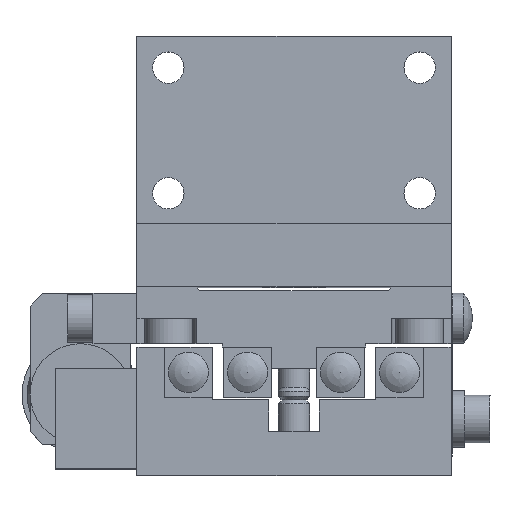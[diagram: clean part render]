
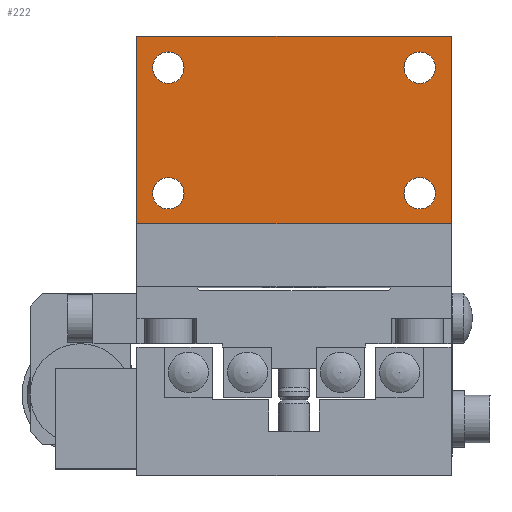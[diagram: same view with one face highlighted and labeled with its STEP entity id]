
A CAD part, top view. The second image highlights one B-rep face of the part: STEP entity #222.
In plain terms, the highlighted planar face has unit normal (0, 0, 1).
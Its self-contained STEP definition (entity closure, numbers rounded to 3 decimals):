
#222 = ADVANCED_FACE( '', ( #465, #466, #467, #468, #469 ), #470, .T. );
#465 = FACE_BOUND( '', #1063, .T. );
#466 = FACE_BOUND( '', #1064, .T. );
#467 = FACE_BOUND( '', #1065, .T. );
#468 = FACE_BOUND( '', #1066, .T. );
#469 = FACE_OUTER_BOUND( '', #1067, .T. );
#470 = PLANE( '', #1068 );
#1063 = EDGE_LOOP( '', ( #1679 ) );
#1064 = EDGE_LOOP( '', ( #1680 ) );
#1065 = EDGE_LOOP( '', ( #1681 ) );
#1066 = EDGE_LOOP( '', ( #1682 ) );
#1067 = EDGE_LOOP( '', ( #1683, #1684, #1685, #1686 ) );
#1068 = AXIS2_PLACEMENT_3D( '', #1687, #1688, #1689 );
#1679 = ORIENTED_EDGE( '', *, *, #3337, .T. );
#1680 = ORIENTED_EDGE( '', *, *, #3338, .T. );
#1681 = ORIENTED_EDGE( '', *, *, #3339, .T. );
#1682 = ORIENTED_EDGE( '', *, *, #3340, .T. );
#1683 = ORIENTED_EDGE( '', *, *, #3341, .F. );
#1684 = ORIENTED_EDGE( '', *, *, #3325, .F. );
#1685 = ORIENTED_EDGE( '', *, *, #3342, .F. );
#1686 = ORIENTED_EDGE( '', *, *, #3334, .F. );
#1687 = CARTESIAN_POINT( '', ( 128.906, -5., 5. ) );
#1688 = DIRECTION( '', ( 0., 0., 1. ) );
#1689 = DIRECTION( '', ( 0., 1., 0. ) );
#3325 = EDGE_CURVE( '', #3820, #3823, #3824, .T. );
#3334 = EDGE_CURVE( '', #3838, #3841, #3842, .T. );
#3337 = EDGE_CURVE( '', #3846, #3846, #3847, .T. );
#3338 = EDGE_CURVE( '', #3848, #3848, #3849, .T. );
#3339 = EDGE_CURVE( '', #3850, #3850, #3851, .T. );
#3340 = EDGE_CURVE( '', #3852, #3852, #3853, .T. );
#3341 = EDGE_CURVE( '', #3823, #3838, #3854, .T. );
#3342 = EDGE_CURVE( '', #3841, #3820, #3855, .T. );
#3820 = VERTEX_POINT( '', #4644 );
#3823 = VERTEX_POINT( '', #4648 );
#3824 = LINE( '', #4649, #4650 );
#3838 = VERTEX_POINT( '', #4666 );
#3841 = VERTEX_POINT( '', #4670 );
#3842 = LINE( '', #4671, #4672 );
#3846 = VERTEX_POINT( '', #4678 );
#3847 = CIRCLE( '', #4679, 1.25 );
#3848 = VERTEX_POINT( '', #4680 );
#3849 = CIRCLE( '', #4681, 1.25 );
#3850 = VERTEX_POINT( '', #4682 );
#3851 = CIRCLE( '', #4683, 1.25 );
#3852 = VERTEX_POINT( '', #4684 );
#3853 = CIRCLE( '', #4685, 1.25 );
#3854 = LINE( '', #4686, #4687 );
#3855 = LINE( '', #4688, #4689 );
#4644 = CARTESIAN_POINT( '', ( -12.5, 10., 5. ) );
#4648 = CARTESIAN_POINT( '', ( 12.5, 10., 5. ) );
#4649 = CARTESIAN_POINT( '', ( 0., 10., 5. ) );
#4650 = VECTOR( '', #5866, 1000. );
#4666 = CARTESIAN_POINT( '', ( 12.5, -5., 5. ) );
#4670 = CARTESIAN_POINT( '', ( -12.5, -5., 5. ) );
#4671 = CARTESIAN_POINT( '', ( 128.906, -5., 5. ) );
#4672 = VECTOR( '', #5885, 1000. );
#4678 = CARTESIAN_POINT( '', ( 8.75, 7.5, 5. ) );
#4679 = AXIS2_PLACEMENT_3D( '', #5888, #5889, #5890 );
#4680 = CARTESIAN_POINT( '', ( 8.75, -2.5, 5. ) );
#4681 = AXIS2_PLACEMENT_3D( '', #5891, #5892, #5893 );
#4682 = CARTESIAN_POINT( '', ( -11.25, -2.5, 5. ) );
#4683 = AXIS2_PLACEMENT_3D( '', #5894, #5895, #5896 );
#4684 = CARTESIAN_POINT( '', ( -11.25, 7.5, 5. ) );
#4685 = AXIS2_PLACEMENT_3D( '', #5897, #5898, #5899 );
#4686 = CARTESIAN_POINT( '', ( 12.5, -10., 5. ) );
#4687 = VECTOR( '', #5900, 1000. );
#4688 = CARTESIAN_POINT( '', ( -12.5, -10., 5. ) );
#4689 = VECTOR( '', #5901, 1000. );
#5866 = DIRECTION( '', ( 1., 0., 0. ) );
#5885 = DIRECTION( '', ( -1., 0., 0. ) );
#5888 = CARTESIAN_POINT( '', ( 10., 7.5, 5. ) );
#5889 = DIRECTION( '', ( 0., 0., -1. ) );
#5890 = DIRECTION( '', ( -1., 0., 0. ) );
#5891 = CARTESIAN_POINT( '', ( 10., -2.5, 5. ) );
#5892 = DIRECTION( '', ( 0., 0., -1. ) );
#5893 = DIRECTION( '', ( -1., 0., 0. ) );
#5894 = CARTESIAN_POINT( '', ( -10., -2.5, 5. ) );
#5895 = DIRECTION( '', ( 0., 0., -1. ) );
#5896 = DIRECTION( '', ( -1., 0., 0. ) );
#5897 = CARTESIAN_POINT( '', ( -10., 7.5, 5. ) );
#5898 = DIRECTION( '', ( 0., 0., -1. ) );
#5899 = DIRECTION( '', ( -1., 0., 0. ) );
#5900 = DIRECTION( '', ( 0., -1., 0. ) );
#5901 = DIRECTION( '', ( 0., 1., 0. ) );
